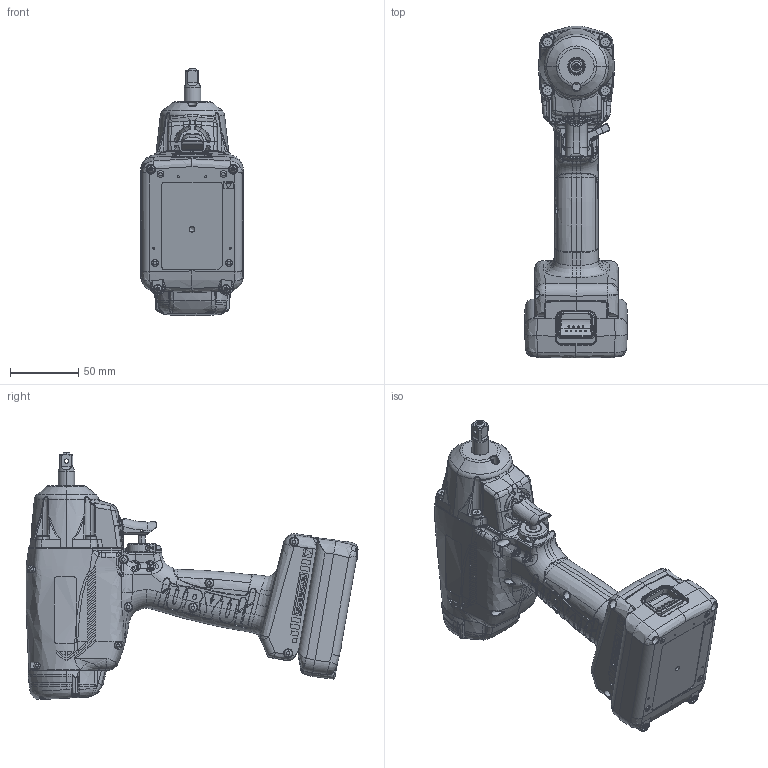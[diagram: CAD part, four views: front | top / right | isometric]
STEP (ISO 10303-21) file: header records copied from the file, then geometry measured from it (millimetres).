
FILE_DESCRIPTION (( 'STEP AP203' ), '1' );
FILE_NAME ('UBX-T60_ŠOŠÏ.STEP', '2023-04-12T02:38:08', ( '' ), ( '' ), 'SwSTEP 2.0', 'SolidWorks 2016', '' );
FILE_SCHEMA (( 'CONFIG_CONTROL_DESIGN' ));
Length unit declared in the file: millimetre
Products named in the file (13): 12F-013-0_本体上フタ_外観用; UBX-T60_外観; バッテリー14.4V; 12F-012-0_本体フタ_外観用; UBX-T70_主軸_外観用; 切換レバー_09B-212-4; UBX-T70_本体L_外観用_履歴削除部品データ; UBX-T60フロントケース_(内径部埋める); フロントケースパッキン; バルブレバー_147-107-2; Part1^UBX-T60_外観用; UBX-T70_スイッチ基部_外観用; UBX-T70_本体R_外観用_履歴削除部品データ
Assembly tree (11 placements, depth 2):
  UBX-T60_外観
    UBX-T70_本体R_外観用_履歴削除部品データ
    UBX-T70_本体L_外観用_履歴削除部品データ
    UBX-T70_スイッチ基部_外観用
    バルブレバー_147-107-2
    切換レバー_09B-212-4
    UBX-T70_主軸_外観用
    バッテリー14.4V
    12F-012-0_本体フタ_外観用
    12F-013-0_本体上フタ_外観用
    フロントケースパッキン
    UBX-T60フロントケース_(内径部埋める)
  Part1^UBX-T60_外観用
Bounding box: 75 x 242.5 x 180.51 mm (x, y, z)
Volume: 873271.8 mm3; surface area: 157083.4 mm2
Topology: 14 solids, 23 shells, 5897 faces, 15542 edges, 9815 vertices
Faces by surface type: plane 2372, cylinder 1468, bspline 1458, torus 322, cone 225, sphere 52
Entity records: 250681 total; most frequent: CARTESIAN_POINT 117650, ORIENTED_EDGE 30752, DIRECTION 22740, EDGE_CURVE 15376, VERTEX_POINT 9805, AXIS2_PLACEMENT_3D 7860, VECTOR 7020, LINE 7020
